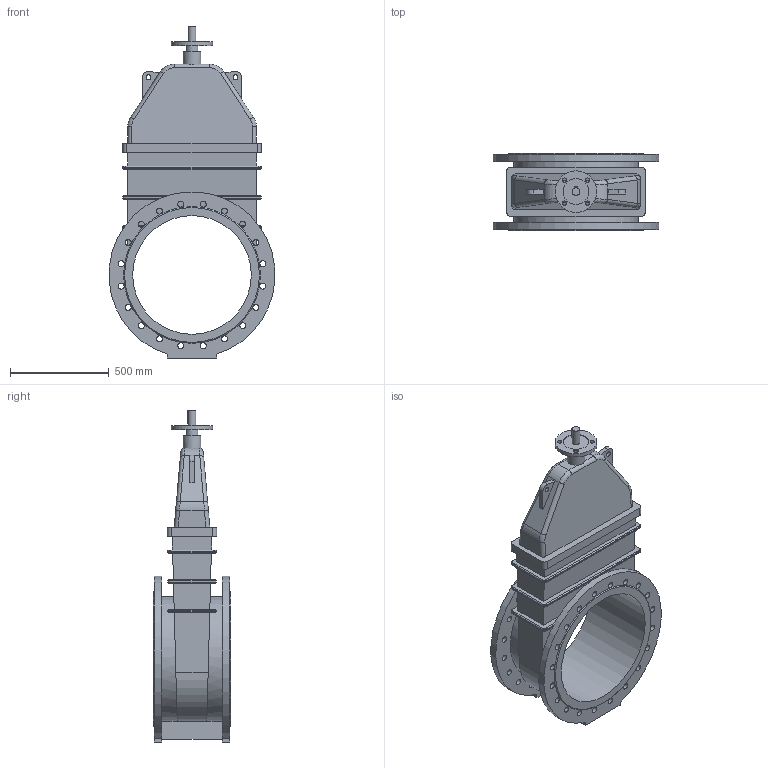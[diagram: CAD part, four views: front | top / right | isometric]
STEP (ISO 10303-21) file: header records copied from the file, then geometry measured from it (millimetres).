
FILE_DESCRIPTION(('STEP AP203'), '1');
FILE_NAME('Çàäâèæêà 47GVA DN600 PN10 áåç èñïîëíèò. ìåõ.', '', ('UNSPECIFIED'), ('UNSPECIFIED'), 'ASCON STEP Converter 1.6', 'ASCON Math Kernel', '');
FILE_SCHEMA(('CONFIG_CONTROL_DESIGN'));
Length unit declared in the file: millimetre
Bounding box: 838.28 x 390 x 1679 mm (x, y, z)
Volume: 121655857 mm3; surface area: 4412208.7 mm2
Topology: 1 solids, 1 shells, 258 faces, 644 edges, 408 vertices
Faces by surface type: cylinder 127, plane 97, bspline 32, cone 2
Full cylindrical faces by diameter (mm): 22 x4, 25 x2, 30 x40, 40 x1, 60 x1, 90 x1, 130 x1, 210 x1, 600 x1
Entity records: 12684 total; most frequent: CARTESIAN_POINT 4641, ORIENTED_EDGE 1180, DIRECTION 1158, EDGE_CURVE 590, AXIS2_PLACEMENT_3D 435, EDGE_LOOP 426, VERTEX_POINT 408, FACE_BOUND 319
